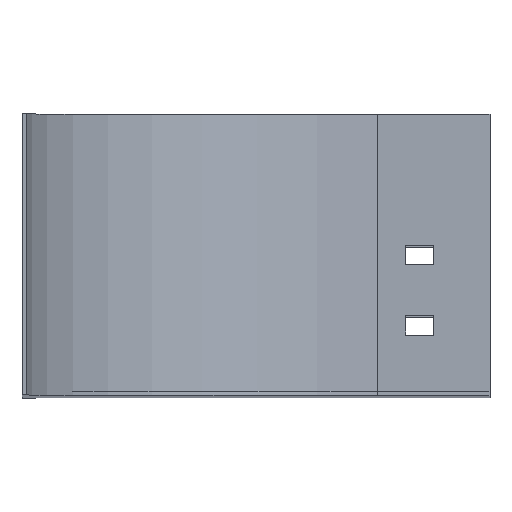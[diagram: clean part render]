
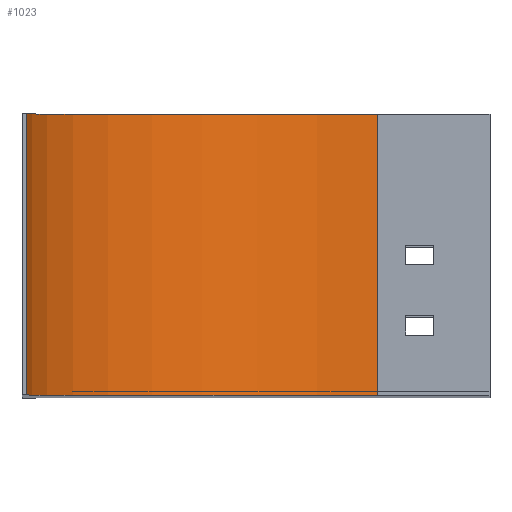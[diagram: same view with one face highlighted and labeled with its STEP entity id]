
A CAD part, top view. The second image highlights one B-rep face of the part: STEP entity #1023.
In plain terms, the highlighted cylindrical face has radius 125 mm (diameter 250 mm), a partial arc.
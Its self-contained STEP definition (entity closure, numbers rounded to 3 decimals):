
#76 = CARTESIAN_POINT ( 'NONE',  ( -125., 100., 0. ) ) ;
#107 = CARTESIAN_POINT ( 'NONE',  ( 0., 100., 0. ) ) ;
#119 = ORIENTED_EDGE ( 'NONE', *, *, #1364, .F. ) ;
#132 = ORIENTED_EDGE ( 'NONE', *, *, #1324, .T. ) ;
#161 = EDGE_LOOP ( 'NONE', ( #720, #964, #119, #132 ) ) ;
#187 = VERTEX_POINT ( 'NONE', #1350 ) ;
#212 = DIRECTION ( 'NONE',  ( 0., 0., -1. ) ) ;
#342 = DIRECTION ( 'NONE',  ( 0., -1., 0. ) ) ;
#397 = VECTOR ( 'NONE', #998, 1000. ) ;
#455 = CYLINDRICAL_SURFACE ( 'NONE', #874, 125. ) ;
#471 = CARTESIAN_POINT ( 'NONE',  ( 0., 100., -125. ) ) ;
#492 = EDGE_CURVE ( 'NONE', #1355, #1225, #1395, .T. ) ;
#554 = AXIS2_PLACEMENT_3D ( 'NONE', #578, #689, #212 ) ;
#578 = CARTESIAN_POINT ( 'NONE',  ( 0., 0., 0. ) ) ;
#653 = CARTESIAN_POINT ( 'NONE',  ( 0., 0., -125. ) ) ;
#689 = DIRECTION ( 'NONE',  ( 0., -1., 0. ) ) ;
#720 = ORIENTED_EDGE ( 'NONE', *, *, #1475, .T. ) ;
#731 = DIRECTION ( 'NONE',  ( 0., 0., -1. ) ) ;
#743 = AXIS2_PLACEMENT_3D ( 'NONE', #1004, #747, #731 ) ;
#747 = DIRECTION ( 'NONE',  ( 0., -1., 0. ) ) ;
#823 = CIRCLE ( 'NONE', #743, 125. ) ;
#874 = AXIS2_PLACEMENT_3D ( 'NONE', #107, #342, #1384 ) ;
#964 = ORIENTED_EDGE ( 'NONE', *, *, #492, .F. ) ;
#993 = LINE ( 'NONE', #76, #1259 ) ;
#998 = DIRECTION ( 'NONE',  ( 0., -1., 0. ) ) ;
#1004 = CARTESIAN_POINT ( 'NONE',  ( 0., 100., 0. ) ) ;
#1012 = CARTESIAN_POINT ( 'NONE',  ( -125., 0., 0. ) ) ;
#1023 = ADVANCED_FACE ( 'NONE', ( #1512 ), #455, .F. ) ;
#1085 = DIRECTION ( 'NONE',  ( 0., -1., 0. ) ) ;
#1225 = VERTEX_POINT ( 'NONE', #653 ) ;
#1259 = VECTOR ( 'NONE', #1085, 1000. ) ;
#1324 = EDGE_CURVE ( 'NONE', #187, #1344, #993, .T. ) ;
#1344 = VERTEX_POINT ( 'NONE', #1012 ) ;
#1350 = CARTESIAN_POINT ( 'NONE',  ( -125., 100., 0. ) ) ;
#1355 = VERTEX_POINT ( 'NONE', #1394 ) ;
#1364 = EDGE_CURVE ( 'NONE', #187, #1355, #823, .T. ) ;
#1384 = DIRECTION ( 'NONE',  ( 0., 0., -1. ) ) ;
#1394 = CARTESIAN_POINT ( 'NONE',  ( 0., 100., -125. ) ) ;
#1395 = LINE ( 'NONE', #471, #397 ) ;
#1475 = EDGE_CURVE ( 'NONE', #1344, #1225, #1564, .T. ) ;
#1512 = FACE_OUTER_BOUND ( 'NONE', #161, .T. ) ;
#1564 = CIRCLE ( 'NONE', #554, 125. ) ;
